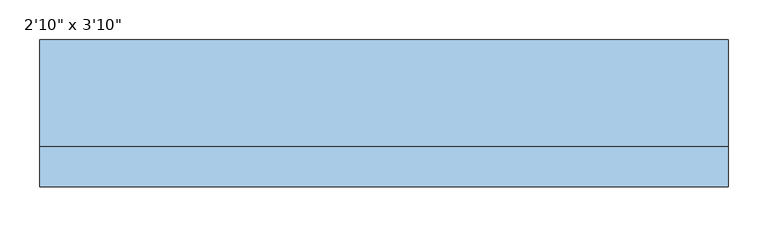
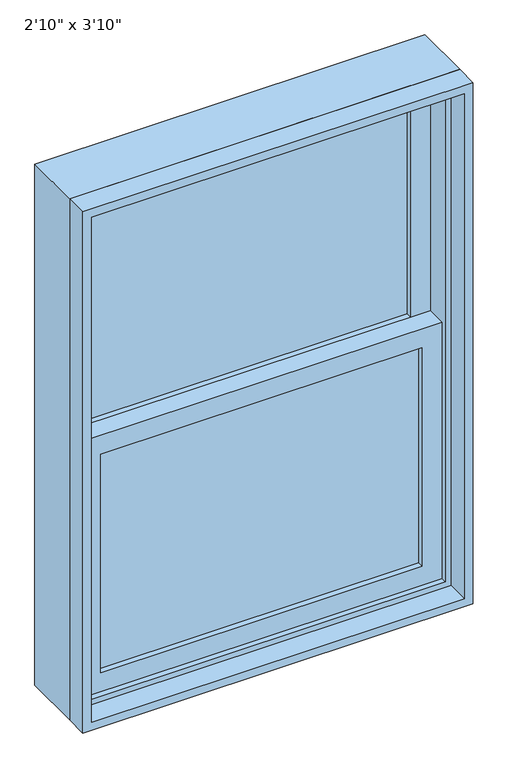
"""IFC4 building model written with IfcOpenShell, lengths in millimetres: window geometry."""

from ifc_helpers import new_model, si_unit, frame, origin, place, context, project, spatial, polyline, outline, extrude, source, transform, mapped, element, save


def window_6252a8aa(model_context):
    return source(origin(), model_context, "Body", "SweptSolid", [
        extrude(outline(polyline([(355.6, 12.7), (355.6, 6.35), (-355.6, 6.35), (-355.6, 12.7), (355.6, 12.7)])), frame((0.0, 0.0, 990.6), z_axis=(0.0, 0.0, 1.0), x_axis=(1.0, 0.0, 0.0)), (0.0, 0.0, 1.0), 511.175),
        extrude(outline(polyline([(-355.6, 0.0), (355.6, 0.0), (355.6, -6.35), (-355.6, -6.35), (-355.6, 0.0)])), frame((0.0, 0.0, 990.6), z_axis=(0.0, 0.0, 1.0), x_axis=(1.0, 0.0, 0.0)), (0.0, 0.0, 1.0), 511.175),
        extrude(outline(polyline([(355.6, 57.15), (355.6, 50.8), (-355.6, 50.8), (-355.6, 57.15), (355.6, 57.15)])), frame((0.0, 0.0, 1546.225), z_axis=(0.0, 0.0, 1.0), x_axis=(1.0, 0.0, 0.0)), (0.0, 0.0, 1.0), 511.175),
        extrude(outline(polyline([(-355.6, 44.45), (355.6, 44.45), (355.6, 38.1), (-355.6, 38.1), (-355.6, 44.45)])), frame((0.0, 0.0, 1546.225), z_axis=(0.0, 0.0, 1.0), x_axis=(1.0, 0.0, 0.0)), (0.0, 0.0, 1.0), 511.175),
        extrude(outline(polyline([(1546.225, -400.05), (946.15, -400.05), (946.15, 400.05), (1546.225, 400.05), (1546.225, -400.05)]), holes=[polyline([(1501.775, 355.6), (990.6, 355.6), (990.6, -355.6), (1501.775, -355.6), (1501.775, 355.6)])]), frame((0.0, -19.05, 0.0), z_axis=(0.0, 1.0, 0.0), x_axis=(0.0, 0.0, 1.0)), (0.0, 0.0, 1.0), 44.45),
        extrude(outline(polyline([(2101.85, -400.05), (1501.775, -400.05), (1501.775, 400.05), (2101.85, 400.05), (2101.85, -400.05)]), holes=[polyline([(2057.4, 355.6), (1546.225, 355.6), (1546.225, -355.6), (2057.4, -355.6), (2057.4, 355.6)])]), frame((0.0, 25.4, 0.0), z_axis=(0.0, 1.0, 0.0), x_axis=(0.0, 0.0, 1.0)), (0.0, 0.0, 1.0), 44.45),
        extrude(outline(polyline([(2133.6, -431.8), (914.4, -431.8), (914.4, 431.8), (2133.6, 431.8), (2133.6, -431.8)]), holes=[polyline([(2101.85, 400.05), (946.15, 400.05), (946.15, -400.05), (2101.85, -400.05), (2101.85, 400.05)])]), frame((0.0, -31.75, 0.0), z_axis=(0.0, 1.0, 0.0), x_axis=(0.0, 0.0, 1.0)), (0.0, 0.0, 1.0), 133.35),
        extrude(outline(polyline([(2133.6, 431.8), (2133.6, -431.8), (914.4, -431.8), (914.4, 431.8), (2133.6, 431.8)]), holes=[polyline([(2114.55, 412.75), (933.45, 412.75), (933.45, -412.75), (2114.55, -412.75), (2114.55, 412.75)])]), frame((0.0, -82.55, 0.0), z_axis=(0.0, 1.0, 0.0), x_axis=(0.0, 0.0, 1.0)), (0.0, 0.0, 1.0), 50.8),
    ])


if __name__ == "__main__":
    model = new_model("IFC4")
    model_context = context("Model", 3, world=origin())
    ifc_project = project(units=[si_unit("LENGTHUNIT", "METRE", prefix="MILLI")], contexts=[model_context])
    site = spatial("IfcSite", under=ifc_project)
    building = spatial("IfcBuilding", under=site)
    placement = place(None, origin())
    window_shape = window_6252a8aa(model_context)
    element("IfcWindow", 1, ObjectType="Planitar-Double-Hung-Single : 2'10\" x 3'10\"", at=placement, inside=building, context=model_context, shape_type="MappedRepresentation", body=[
        mapped(window_shape, transform((0.0, 0.0, 0.0), x_axis=(1.0, 0.0, 0.0), y_axis=(0.0, 1.0, 0.0), z_axis=(0.0, 0.0, 1.0))),
    ])
    save(model, "model.ifc")
